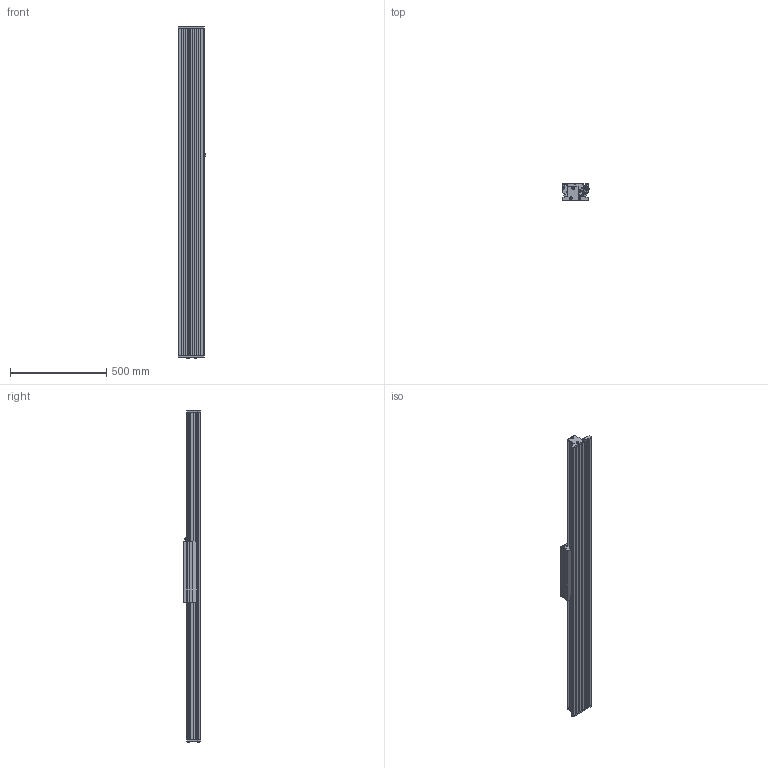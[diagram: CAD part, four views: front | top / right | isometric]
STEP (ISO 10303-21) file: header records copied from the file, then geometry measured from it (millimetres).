
FILE_DESCRIPTION (( 'STEP AP214' ), '1' );
FILE_NAME ('SINADRIVES Linear motor stage MLL20400XS-XX-1-0-ST-00-01716.STEP', '2015-07-06T11:03:13', ( 'Tecnico' ), ( '' ), 'SwSTEP 2.0', 'SolidWorks 2009', '' );
FILE_SCHEMA (( 'AUTOMOTIVE_DESIGN' ));
Length unit declared in the file: millimetre
Products named in the file (7): SINADRIVES PROFILE MLL2XXXX-1700; SINADRIVES CARRIAGE MLL20400XS-1; CARRIAGE MLL20400; Connector power+signal Y-tec 45; SINADRIVES ENDBLOCK MLL2; SINADRIVES ENDBLOCK MLL2-2; SINADRIVES Linear motor stage MLL20400XS-XX-1-0-ST-00-01716
Assembly tree (6 placements, depth 3):
  SINADRIVES Linear motor stage MLL20400XS-XX-1-0-ST-00-01716
    SINADRIVES CARRIAGE MLL20400XS-1
      Connector power+signal Y-tec 45
      CARRIAGE MLL20400
    SINADRIVES ENDBLOCK MLL2-2
    SINADRIVES PROFILE MLL2XXXX-1700
    SINADRIVES ENDBLOCK MLL2
Bounding box: 144.43 x 91 x 1724.8 mm (x, y, z)
Volume: 8591479.2 mm3; surface area: 1478431 mm2
Topology: 2 solids, 42 shells, 950 faces, 2640 edges, 1730 vertices
Faces by surface type: plane 445, cylinder 302, bspline 79, cone 70, torus 42, sphere 12
Entity records: 40587 total; most frequent: CARTESIAN_POINT 8656, ORIENTED_EDGE 5024, DIRECTION 4947, EDGE_CURVE 2622, AXIS2_PLACEMENT_3D 1781, VERTEX_POINT 1730, VECTOR 1385, LINE 1385
